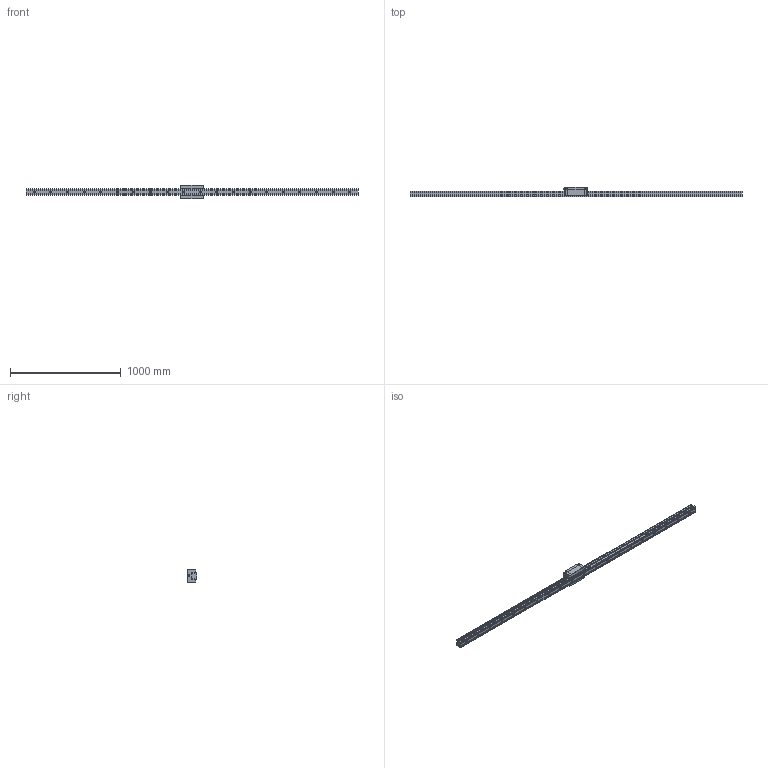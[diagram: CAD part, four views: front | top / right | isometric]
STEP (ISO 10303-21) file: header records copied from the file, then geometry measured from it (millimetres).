
FILE_DESCRIPTION(/* description */ ('STEP AP214'),/* implementation_level */ '2;1');
FILE_NAME(/* name */ 'HDR65R1SS-3000L_G75_0_B-PT18_1400-4_0_0_01',/* time_stamp */ '2023-06-30T12:34:23+02:00',/* author */ ('License CC BY-ND 4.0'),/* organization */ ('CADENAS'),/* preprocessor_version */ 'ST-DEVELOPER v19.3',/* originating_system */ 'PARTsolutions',/* authorisation */ ' ');
FILE_SCHEMA (('AUTOMOTIVE_DESIGN {1 0 10303 214 3 1 1}'));
Length unit declared in the file: millimetre
Products named in the file (4): HDR65R1SS-3000L_G75_0_B-PT18_1400-4_0_0_01; hsr_ftht_B-PT1/8_grease_nipple_joint; HDR65RSSB-PT1/81 Slider; HDR65R1300075 Rail
Assembly tree (3 placements, depth 2):
  HDR65R1SS-3000L_G75_0_B-PT18_1400-4_0_0_01
    hsr_ftht_B-PT1/8_grease_nipple_joint
    HDR65RSSB-PT1/81 Slider
    HDR65R1300075 Rail
Bounding box: 3000 x 90 x 126 mm (x, y, z)
Volume: 9962819.2 mm3; surface area: 939048.6 mm2
Topology: 3 solids, 3 shells, 285 faces, 713 edges, 464 vertices
Faces by surface type: plane 159, cylinder 97, cone 24, torus 3, sphere 2
Full cylindrical faces by diameter (mm): 5.2 x4, 9.6 x1, 10.2 x2, 12.5 x2, 13.835 x6, 18 x20, 26 x20
Entity records: 8227 total; most frequent: CARTESIAN_POINT 1488, DIRECTION 1385, ORIENTED_EDGE 1228, EDGE_CURVE 614, AXIS2_PLACEMENT_3D 509, VERTEX_POINT 457, FACE_BOUND 447, EDGE_LOOP 439
